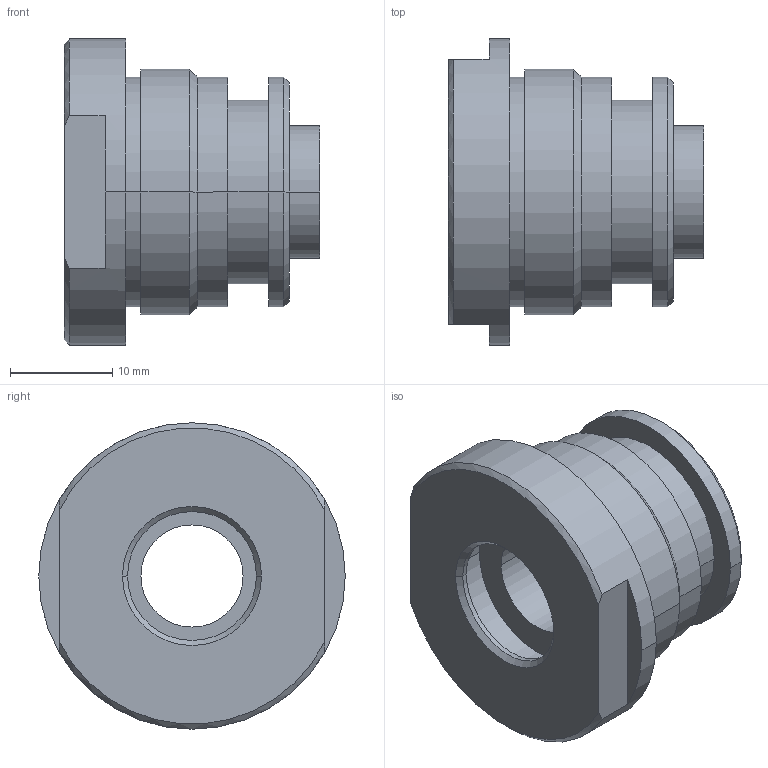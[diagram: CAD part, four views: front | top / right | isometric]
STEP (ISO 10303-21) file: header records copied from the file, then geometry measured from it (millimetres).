
FILE_DESCRIPTION(('CATIA V5 STEP Exchange','CAx-IF Rec.Pracs.--- Model Styling and Organization---1.4--- 2014-01-23','CAx-IF Rec.Pracs.---3D Tessellated Data Validation Properties---0.5---2014-09-14'),'2;1');
FILE_NAME('\\Nas_bts_indus\prod$\RESSOURCES\PROFS\CGM\2022 ressources jour J\Sujet\FAO Usinage Tournage\Candidat 1 FAO Usinage Fraisage\Piston guide.stp','2022-07-04T11:19:30+00:00',('none'),('none'),'CATIA Version 5-6 Release 2018 SP6','CATIA V5 STEP AP242','none');
FILE_SCHEMA(('AP242_MANAGED_MODEL_BASED_3D_ENGINEERING_MIM_LF {1 0 10303 442 1 1 4}'));
Length unit declared in the file: millimetre
Products named in the file (1): Piston guide
Bounding box: 25 x 30 x 30 mm (x, y, z)
Volume: 8084.4 mm3; surface area: 4354.9 mm2
Topology: 1 solids, 1 shells, 43 faces, 92 edges, 58 vertices
Faces by surface type: cylinder 20, plane 13, cone 10
Entity records: 1096 total; most frequent: CARTESIAN_POINT 199, ORIENTED_EDGE 184, DIRECTION 148, EDGE_CURVE 92, AXIS2_PLACEMENT_3D 83, VERTEX_POINT 58, CIRCLE 52, EDGE_LOOP 52
